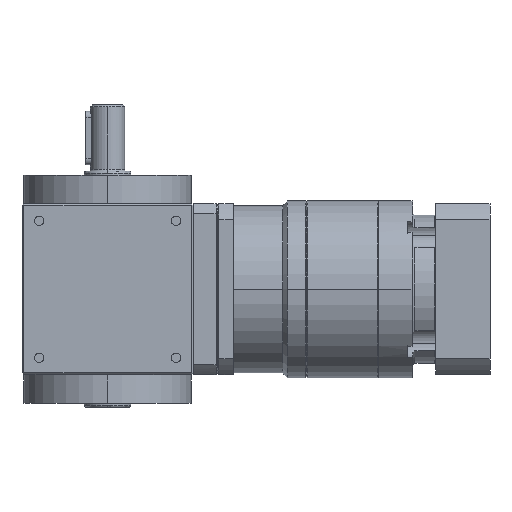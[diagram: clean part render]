
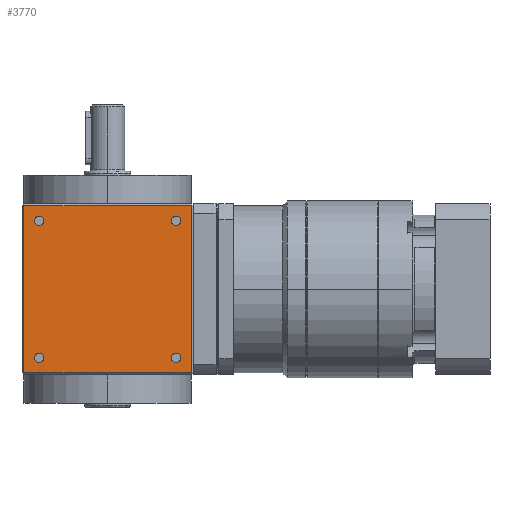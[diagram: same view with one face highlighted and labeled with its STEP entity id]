
A CAD part, left-side view. The second image highlights one B-rep face of the part: STEP entity #3770.
In plain terms, the highlighted planar face has unit normal (-1, 0, 0).
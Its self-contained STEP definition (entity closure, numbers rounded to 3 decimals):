
#275 = CIRCLE ( 'NONE', #2523, 2.5 ) ;
#651 = CARTESIAN_POINT ( 'NONE',  ( -45., -36., 38.5 ) ) ;
#729 = FACE_BOUND ( 'NONE', #13102, .T. ) ;
#997 = CARTESIAN_POINT ( 'NONE',  ( -45., 45., -45. ) ) ;
#1079 = DIRECTION ( 'NONE',  ( 0., 0., -1. ) ) ;
#1254 = VERTEX_POINT ( 'NONE', #7787 ) ;
#1554 = CIRCLE ( 'NONE', #6640, 2.5 ) ;
#1624 = VERTEX_POINT ( 'NONE', #5460 ) ;
#1657 = ORIENTED_EDGE ( 'NONE', *, *, #7467, .T. ) ;
#1867 = CARTESIAN_POINT ( 'NONE',  ( -45., -36., 36. ) ) ;
#2166 = ORIENTED_EDGE ( 'NONE', *, *, #17049, .T. ) ;
#2395 = FACE_BOUND ( 'NONE', #4560, .T. ) ;
#2523 = AXIS2_PLACEMENT_3D ( 'NONE', #9689, #2975, #3048 ) ;
#2901 = DIRECTION ( 'NONE',  ( 1., 0., 0. ) ) ;
#2975 = DIRECTION ( 'NONE',  ( 1., 0., 0. ) ) ;
#3020 = DIRECTION ( 'NONE',  ( 0., 0., 1. ) ) ;
#3048 = DIRECTION ( 'NONE',  ( 0., 0., 1. ) ) ;
#3209 = AXIS2_PLACEMENT_3D ( 'NONE', #1867, #15204, #3020 ) ;
#3364 = AXIS2_PLACEMENT_3D ( 'NONE', #997, #16972, #6196 ) ;
#3770 = ADVANCED_FACE ( 'NONE', ( #10440, #17485, #729, #2395, #6288 ), #6114, .T. ) ;
#3818 = ORIENTED_EDGE ( 'NONE', *, *, #9804, .T. ) ;
#3822 = EDGE_CURVE ( 'NONE', #1624, #14293, #10260, .T. ) ;
#3883 = ORIENTED_EDGE ( 'NONE', *, *, #8932, .T. ) ;
#3920 = EDGE_LOOP ( 'NONE', ( #16255, #3883 ) ) ;
#4032 = CARTESIAN_POINT ( 'NONE',  ( -45., 44., -44. ) ) ;
#4061 = CIRCLE ( 'NONE', #13940, 2.5 ) ;
#4416 = ORIENTED_EDGE ( 'NONE', *, *, #13411, .T. ) ;
#4418 = VERTEX_POINT ( 'NONE', #4785 ) ;
#4560 = EDGE_LOOP ( 'NONE', ( #2166, #17185 ) ) ;
#4785 = CARTESIAN_POINT ( 'NONE',  ( -45., -44., 44. ) ) ;
#4792 = CARTESIAN_POINT ( 'NONE',  ( -45., 45., 44. ) ) ;
#4915 = CARTESIAN_POINT ( 'NONE',  ( -45., 36., -33.5 ) ) ;
#5132 = DIRECTION ( 'NONE',  ( 1., 0., 0. ) ) ;
#5460 = CARTESIAN_POINT ( 'NONE',  ( -45., 44., 44. ) ) ;
#5478 = DIRECTION ( 'NONE',  ( 0., 0., 1. ) ) ;
#5802 = VERTEX_POINT ( 'NONE', #651 ) ;
#6053 = LINE ( 'NONE', #13831, #8567 ) ;
#6114 = PLANE ( 'NONE',  #3364 ) ;
#6147 = VERTEX_POINT ( 'NONE', #11379 ) ;
#6196 = DIRECTION ( 'NONE',  ( 0., 0., 1. ) ) ;
#6288 = FACE_BOUND ( 'NONE', #3920, .T. ) ;
#6537 = CARTESIAN_POINT ( 'NONE',  ( -45., 36., 36. ) ) ;
#6591 = DIRECTION ( 'NONE',  ( 1., 0., 0. ) ) ;
#6610 = CARTESIAN_POINT ( 'NONE',  ( -45., 36., 38.5 ) ) ;
#6640 = AXIS2_PLACEMENT_3D ( 'NONE', #9819, #8332, #8490 ) ;
#6844 = VERTEX_POINT ( 'NONE', #15214 ) ;
#6937 = AXIS2_PLACEMENT_3D ( 'NONE', #8125, #2901, #5478 ) ;
#7094 = CARTESIAN_POINT ( 'NONE',  ( -45., -36., 36. ) ) ;
#7159 = VERTEX_POINT ( 'NONE', #13457 ) ;
#7299 = ORIENTED_EDGE ( 'NONE', *, *, #14006, .T. ) ;
#7455 = VERTEX_POINT ( 'NONE', #10339 ) ;
#7467 = EDGE_CURVE ( 'NONE', #15767, #9346, #12304, .T. ) ;
#7543 = EDGE_CURVE ( 'NONE', #7455, #7159, #15654, .T. ) ;
#7624 = VECTOR ( 'NONE', #1079, 1000. ) ;
#7787 = CARTESIAN_POINT ( 'NONE',  ( -45., 36., -38.5 ) ) ;
#7799 = CARTESIAN_POINT ( 'NONE',  ( -45., 36., -36. ) ) ;
#7919 = CARTESIAN_POINT ( 'NONE',  ( -45., 36., 36. ) ) ;
#8056 = DIRECTION ( 'NONE',  ( 0., 0., 1. ) ) ;
#8125 = CARTESIAN_POINT ( 'NONE',  ( -45., -36., -36. ) ) ;
#8302 = DIRECTION ( 'NONE',  ( 0., -1., 0. ) ) ;
#8332 = DIRECTION ( 'NONE',  ( 1., 0., 0. ) ) ;
#8490 = DIRECTION ( 'NONE',  ( 0., 0., 1. ) ) ;
#8563 = EDGE_CURVE ( 'NONE', #9346, #15767, #11708, .T. ) ;
#8567 = VECTOR ( 'NONE', #11446, 1000. ) ;
#8915 = DIRECTION ( 'NONE',  ( 0., 0., 1. ) ) ;
#8932 = EDGE_CURVE ( 'NONE', #1254, #17441, #1554, .T. ) ;
#9346 = VERTEX_POINT ( 'NONE', #16335 ) ;
#9689 = CARTESIAN_POINT ( 'NONE',  ( -45., -36., -36. ) ) ;
#9740 = DIRECTION ( 'NONE',  ( 0., 0., 1. ) ) ;
#9804 = EDGE_CURVE ( 'NONE', #6844, #4418, #6053, .T. ) ;
#9819 = CARTESIAN_POINT ( 'NONE',  ( -45., 36., -36. ) ) ;
#10183 = DIRECTION ( 'NONE',  ( 0., 1., 0. ) ) ;
#10196 = EDGE_CURVE ( 'NONE', #5802, #6147, #14795, .T. ) ;
#10215 = EDGE_CURVE ( 'NONE', #6147, #5802, #4061, .T. ) ;
#10260 = LINE ( 'NONE', #14330, #7624 ) ;
#10270 = LINE ( 'NONE', #4792, #16401 ) ;
#10339 = CARTESIAN_POINT ( 'NONE',  ( -45., -36., -38.5 ) ) ;
#10440 = FACE_OUTER_BOUND ( 'NONE', #15551, .T. ) ;
#10454 = EDGE_CURVE ( 'NONE', #17441, #1254, #15891, .T. ) ;
#10475 = ORIENTED_EDGE ( 'NONE', *, *, #10215, .T. ) ;
#10607 = DIRECTION ( 'NONE',  ( 1., 0., 0. ) ) ;
#11379 = CARTESIAN_POINT ( 'NONE',  ( -45., -36., 33.5 ) ) ;
#11446 = DIRECTION ( 'NONE',  ( 0., 0., 1. ) ) ;
#11708 = CIRCLE ( 'NONE', #14515, 2.5 ) ;
#11846 = VECTOR ( 'NONE', #8302, 1000. ) ;
#12055 = EDGE_LOOP ( 'NONE', ( #1657, #15600 ) ) ;
#12304 = CIRCLE ( 'NONE', #17361, 2.5 ) ;
#12534 = LINE ( 'NONE', #15095, #11846 ) ;
#13102 = EDGE_LOOP ( 'NONE', ( #16203, #10475 ) ) ;
#13411 = EDGE_CURVE ( 'NONE', #4418, #1624, #10270, .T. ) ;
#13457 = CARTESIAN_POINT ( 'NONE',  ( -45., -36., -33.5 ) ) ;
#13831 = CARTESIAN_POINT ( 'NONE',  ( -45., -44., -45. ) ) ;
#13940 = AXIS2_PLACEMENT_3D ( 'NONE', #7094, #15124, #9740 ) ;
#14006 = EDGE_CURVE ( 'NONE', #14293, #6844, #12534, .T. ) ;
#14293 = VERTEX_POINT ( 'NONE', #4032 ) ;
#14330 = CARTESIAN_POINT ( 'NONE',  ( -45., 44., -45. ) ) ;
#14515 = AXIS2_PLACEMENT_3D ( 'NONE', #7919, #6591, #16554 ) ;
#14795 = CIRCLE ( 'NONE', #3209, 2.5 ) ;
#15043 = AXIS2_PLACEMENT_3D ( 'NONE', #7799, #5132, #8056 ) ;
#15095 = CARTESIAN_POINT ( 'NONE',  ( -45., 45., -44. ) ) ;
#15124 = DIRECTION ( 'NONE',  ( 1., 0., 0. ) ) ;
#15204 = DIRECTION ( 'NONE',  ( 1., 0., 0. ) ) ;
#15214 = CARTESIAN_POINT ( 'NONE',  ( -45., -44., -44. ) ) ;
#15319 = ORIENTED_EDGE ( 'NONE', *, *, #3822, .T. ) ;
#15551 = EDGE_LOOP ( 'NONE', ( #7299, #3818, #4416, #15319 ) ) ;
#15600 = ORIENTED_EDGE ( 'NONE', *, *, #8563, .T. ) ;
#15654 = CIRCLE ( 'NONE', #6937, 2.5 ) ;
#15767 = VERTEX_POINT ( 'NONE', #6610 ) ;
#15891 = CIRCLE ( 'NONE', #15043, 2.5 ) ;
#16203 = ORIENTED_EDGE ( 'NONE', *, *, #10196, .T. ) ;
#16255 = ORIENTED_EDGE ( 'NONE', *, *, #10454, .T. ) ;
#16335 = CARTESIAN_POINT ( 'NONE',  ( -45., 36., 33.5 ) ) ;
#16401 = VECTOR ( 'NONE', #10183, 1000. ) ;
#16554 = DIRECTION ( 'NONE',  ( 0., 0., 1. ) ) ;
#16972 = DIRECTION ( 'NONE',  ( -1., 0., 0. ) ) ;
#17049 = EDGE_CURVE ( 'NONE', #7159, #7455, #275, .T. ) ;
#17185 = ORIENTED_EDGE ( 'NONE', *, *, #7543, .T. ) ;
#17361 = AXIS2_PLACEMENT_3D ( 'NONE', #6537, #10607, #8915 ) ;
#17441 = VERTEX_POINT ( 'NONE', #4915 ) ;
#17485 = FACE_BOUND ( 'NONE', #12055, .T. ) ;
